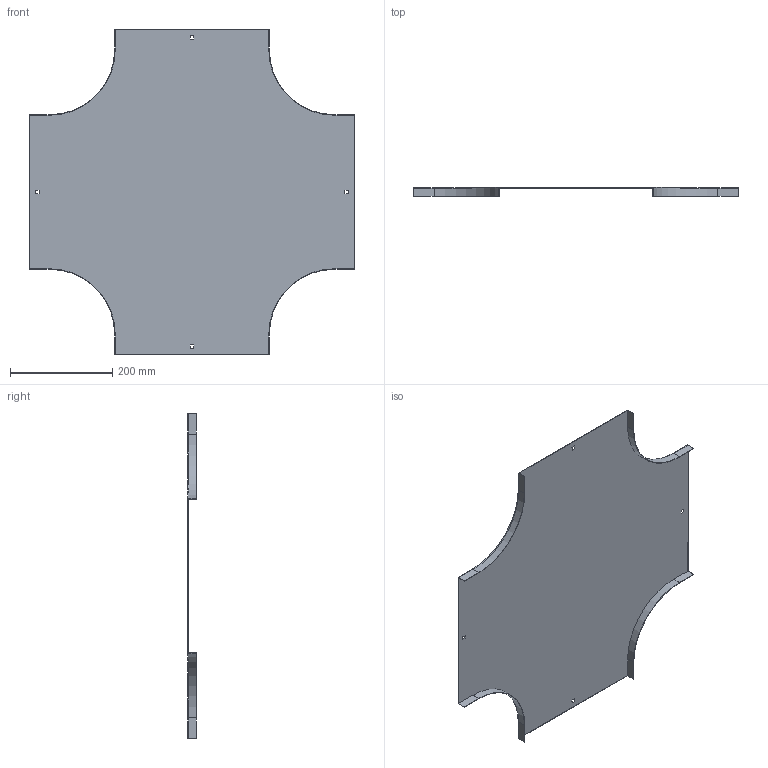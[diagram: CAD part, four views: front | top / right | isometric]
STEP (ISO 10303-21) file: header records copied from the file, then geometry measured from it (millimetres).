
FILE_DESCRIPTION (( 'STEP AP214' ), '1' );
FILE_NAME ('OC_300.step', '2025-07-16T09:10:46', ( '' ), ( '' ), 'SwSTEP 2.0', 'SolidWorks 2023', '' );
FILE_SCHEMA (( 'AUTOMOTIVE_DESIGN' ));
Length unit declared in the file: millimetre
Products named in the file (1): OC_300
Bounding box: 634 x 17 x 634 mm (x, y, z)
Volume: 323029.2 mm3; surface area: 648610.2 mm2
Topology: 1 solids, 1 shells, 50 faces, 144 edges, 96 vertices
Faces by surface type: plane 42, cylinder 8
Entity records: 1663 total; most frequent: CARTESIAN_POINT 291, ORIENTED_EDGE 288, DIRECTION 262, EDGE_CURVE 144, LINE 128, VECTOR 128, VERTEX_POINT 96, AXIS2_PLACEMENT_3D 67
